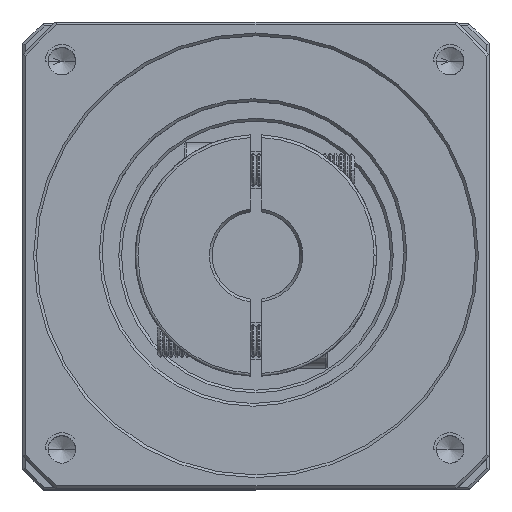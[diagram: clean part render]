
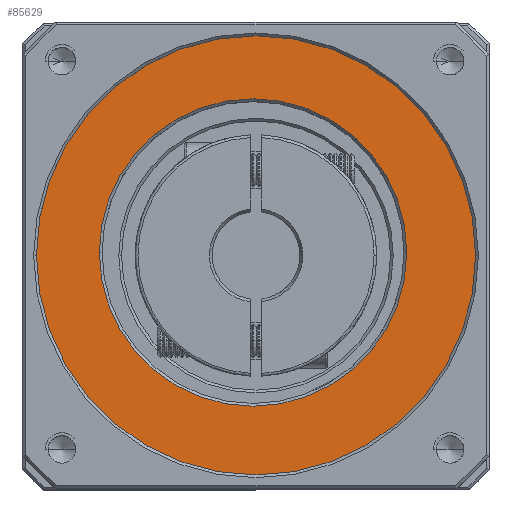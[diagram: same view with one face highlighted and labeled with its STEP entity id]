
A CAD part, top view. The second image highlights one B-rep face of the part: STEP entity #85629.
In plain terms, the highlighted planar face has unit normal (0, 0, 1).
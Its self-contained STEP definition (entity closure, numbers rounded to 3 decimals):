
#411 = CARTESIAN_POINT ( 'NONE',  ( -121.15, 42.371, 120.185 ) ) ;
#2517 = ORIENTED_EDGE ( 'NONE', *, *, #88435, .T. ) ;
#3542 = VERTEX_POINT ( 'NONE', #36260 ) ;
#3738 = CARTESIAN_POINT ( 'NONE',  ( -41.15, 42.371, 120.185 ) ) ;
#10818 = CARTESIAN_POINT ( 'NONE',  ( -53.692, 42.906, 120.185 ) ) ;
#11568 = DIRECTION ( 'NONE',  ( 1., 0., 0. ) ) ;
#11740 = AXIS2_PLACEMENT_3D ( 'NONE', #72633, #63953, #111765 ) ;
#14149 = EDGE_CURVE ( 'NONE', #62444, #3542, #94252, .T. ) ;
#16018 = CIRCLE ( 'NONE', #11740, 40. ) ;
#19972 = ORIENTED_EDGE ( 'NONE', *, *, #128193, .T. ) ;
#21028 = AXIS2_PLACEMENT_3D ( 'NONE', #128322, #68795, #28057 ) ;
#21521 = CARTESIAN_POINT ( 'NONE',  ( -81.692, 42.906, 120.185 ) ) ;
#25496 = EDGE_LOOP ( 'NONE', ( #2517, #26739 ) ) ;
#26739 = ORIENTED_EDGE ( 'NONE', *, *, #89609, .T. ) ;
#28057 = DIRECTION ( 'NONE',  ( 1., 0., 0. ) ) ;
#30414 = CARTESIAN_POINT ( 'NONE',  ( -81.15, 42.371, 120.185 ) ) ;
#31508 = DIRECTION ( 'NONE',  ( 1., 0., 0. ) ) ;
#32491 = CIRCLE ( 'NONE', #21028, 40. ) ;
#36260 = CARTESIAN_POINT ( 'NONE',  ( -109.692, 42.906, 120.185 ) ) ;
#49126 = DIRECTION ( 'NONE',  ( 0., 0., 1. ) ) ;
#51964 = CARTESIAN_POINT ( 'NONE',  ( -81.692, 42.906, 120.185 ) ) ;
#52559 = AXIS2_PLACEMENT_3D ( 'NONE', #21521, #90948, #31508 ) ;
#62444 = VERTEX_POINT ( 'NONE', #10818 ) ;
#63953 = DIRECTION ( 'NONE',  ( 0., 0., 1. ) ) ;
#68795 = DIRECTION ( 'NONE',  ( 0., 0., 1. ) ) ;
#72633 = CARTESIAN_POINT ( 'NONE',  ( -81.15, 42.371, 120.185 ) ) ;
#72991 = AXIS2_PLACEMENT_3D ( 'NONE', #51964, #82246, #11568 ) ;
#82246 = DIRECTION ( 'NONE',  ( 0., 0., -1. ) ) ;
#85629 = ADVANCED_FACE ( 'NONE', ( #124023, #96123 ), #107328, .T. ) ;
#87718 = AXIS2_PLACEMENT_3D ( 'NONE', #30414, #49126, #89863 ) ;
#88435 = EDGE_CURVE ( 'NONE', #103419, #107938, #16018, .T. ) ;
#89609 = EDGE_CURVE ( 'NONE', #107938, #103419, #32491, .T. ) ;
#89863 = DIRECTION ( 'NONE',  ( 1., 0., 0. ) ) ;
#90948 = DIRECTION ( 'NONE',  ( 0., 0., -1. ) ) ;
#94252 = CIRCLE ( 'NONE', #72991, 28. ) ;
#96123 = FACE_BOUND ( 'NONE', #103989, .T. ) ;
#103419 = VERTEX_POINT ( 'NONE', #3738 ) ;
#103989 = EDGE_LOOP ( 'NONE', ( #104688, #19972 ) ) ;
#104688 = ORIENTED_EDGE ( 'NONE', *, *, #14149, .T. ) ;
#107328 = PLANE ( 'NONE',  #87718 ) ;
#107938 = VERTEX_POINT ( 'NONE', #411 ) ;
#110537 = CIRCLE ( 'NONE', #52559, 28. ) ;
#111765 = DIRECTION ( 'NONE',  ( 1., 0., 0. ) ) ;
#124023 = FACE_OUTER_BOUND ( 'NONE', #25496, .T. ) ;
#128193 = EDGE_CURVE ( 'NONE', #3542, #62444, #110537, .T. ) ;
#128322 = CARTESIAN_POINT ( 'NONE',  ( -81.15, 42.371, 120.185 ) ) ;
